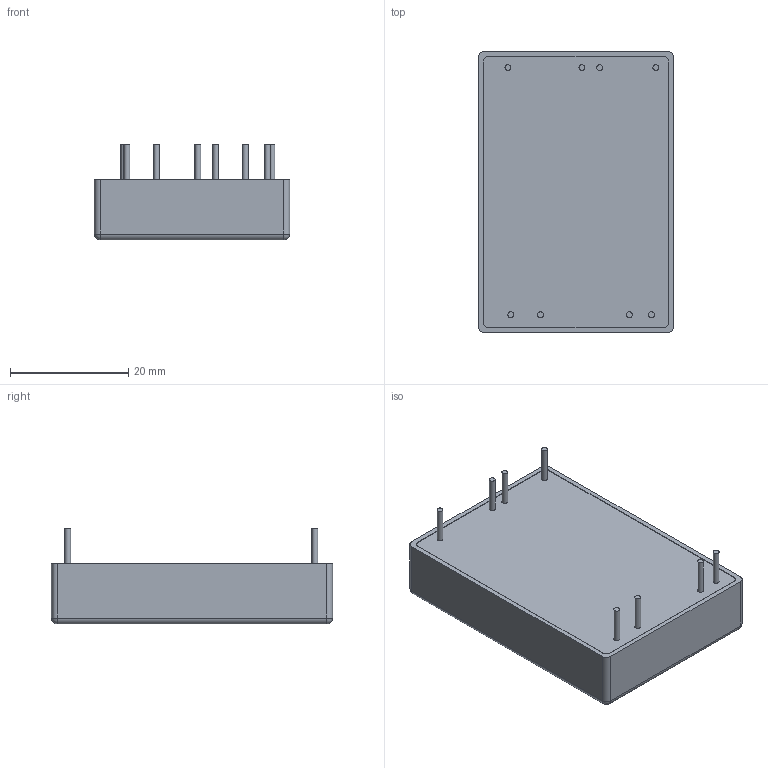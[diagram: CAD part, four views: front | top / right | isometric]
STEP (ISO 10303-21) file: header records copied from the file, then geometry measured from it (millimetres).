
FILE_DESCRIPTION(('STEP AP214'), '1');
FILE_NAME('3 ﾌﾄﾌ20-ﾏ', '', ('UNSPECIFIED'), ('UNSPECIFIED'), 'C3D Converter', 'C3D Toolkit', '');
FILE_SCHEMA(('AUTOMOTIVE_DESIGN { 1 0 10303 214 3 1 1}'));
Length unit declared in the file: millimetre
Products named in the file (1): -02
Bounding box: 33 x 47.5 x 16.2 mm (x, y, z)
Volume: 15840.2 mm3; surface area: 4857.8 mm2
Topology: 1 solids, 1 shells, 43 faces, 88 edges, 52 vertices
Faces by surface type: cylinder 20, plane 19, sphere 4
Full cylindrical faces by diameter (mm): 1 x8
Entity records: 1097 total; most frequent: DIRECTION 204, CARTESIAN_POINT 172, ORIENTED_EDGE 152, AXIS2_PLACEMENT_3D 84, EDGE_CURVE 76, EDGE_LOOP 60, VERTEX_POINT 52, FACE_BOUND 44
